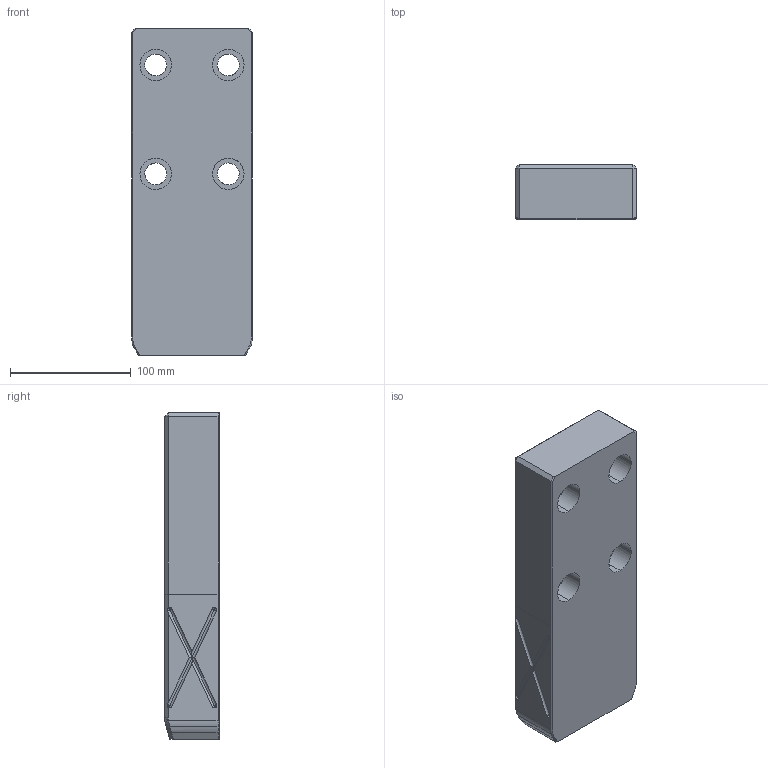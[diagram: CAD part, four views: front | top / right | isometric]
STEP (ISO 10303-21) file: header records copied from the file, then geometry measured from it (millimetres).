
FILE_DESCRIPTION(('CATIA V5 STEP Exchange'),'2;1');
FILE_NAME('D:\temp\color-modify-100929\GWB_6644-6654_R00\3d_gwb100-120-270_6648_r00.stp','2010-09-29T05:16:39+00:00',('none'),('none'),'CATIA Version 5 Release 18 SP 5 (IN-10)','CATIA V5 STEP AP214','none');
FILE_SCHEMA(('AUTOMOTIVE_DESIGN { 1 0 10303 214 1 1 1 1 }'));
Length unit declared in the file: millimetre
Products named in the file (1): GWB100-120-270
Bounding box: 100 x 45 x 270 mm (x, y, z)
Volume: 1133013.3 mm3; surface area: 97180.9 mm2
Topology: 1 solids, 1 shells, 140 faces, 371 edges, 215 vertices
Faces by surface type: cylinder 66, plane 38, revolution 24, cone 8, bspline 4
Entity records: 5326 total; most frequent: CARTESIAN_POINT 2294, ORIENTED_EDGE 694, DIRECTION 450, EDGE_CURVE 347, VERTEX_POINT 215, B_SPLINE_CURVE_WITH_KNOTS 169, AXIS2_PLACEMENT_3D 159, VECTOR 156
